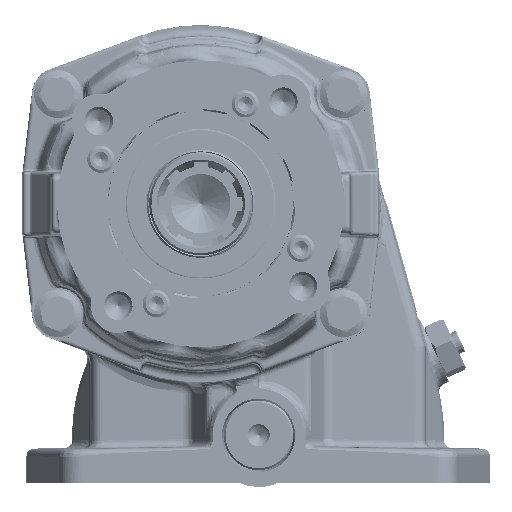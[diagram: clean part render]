
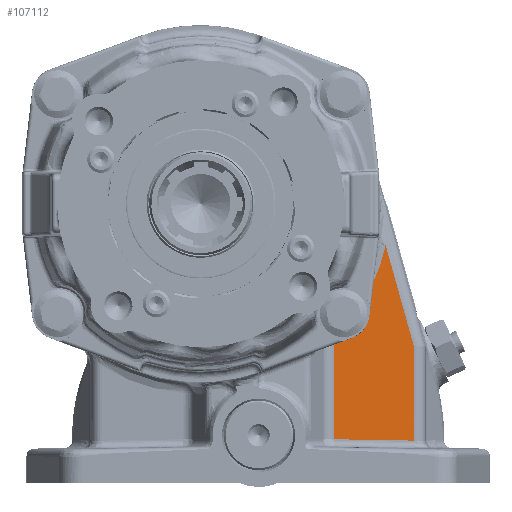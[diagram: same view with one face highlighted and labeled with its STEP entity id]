
A CAD part, left-side view. The second image highlights one B-rep face of the part: STEP entity #107112.
In plain terms, the highlighted planar face has unit normal (-0.999, -0.035, 0).
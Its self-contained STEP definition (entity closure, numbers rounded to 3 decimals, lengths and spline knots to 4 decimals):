
#2184=ELLIPSE('',#114510,3.232,3.23);
#5718=PLANE('',#114509);
#8653=FACE_OUTER_BOUND('',#15112,.T.);
#15112=EDGE_LOOP('',(#72808,#72809,#72810,#72811,#72812));
#25262=LINE('',#159140,#32979);
#25264=LINE('',#159256,#32981);
#25265=LINE('',#159260,#32982);
#25266=LINE('',#159262,#32983);
#32979=VECTOR('',#125168,0.3937);
#32981=VECTOR('',#125190,0.3937);
#32982=VECTOR('',#125195,0.3937);
#32983=VECTOR('',#125196,0.3937);
#44877=VERTEX_POINT('',#159134);
#44878=VERTEX_POINT('',#159138);
#44880=VERTEX_POINT('',#159255);
#44881=VERTEX_POINT('',#159259);
#44882=VERTEX_POINT('',#159261);
#55371=EDGE_CURVE('',#44877,#44878,#25262,.T.);
#55380=EDGE_CURVE('',#44878,#44880,#25264,.T.);
#55382=EDGE_CURVE('',#44881,#44877,#25265,.T.);
#55383=EDGE_CURVE('',#44882,#44881,#25266,.T.);
#55384=EDGE_CURVE('',#44880,#44882,#2184,.T.);
#72808=ORIENTED_EDGE('',*,*,#55371,.F.);
#72809=ORIENTED_EDGE('',*,*,#55382,.F.);
#72810=ORIENTED_EDGE('',*,*,#55383,.F.);
#72811=ORIENTED_EDGE('',*,*,#55384,.F.);
#72812=ORIENTED_EDGE('',*,*,#55380,.F.);
#107112=ADVANCED_FACE('',(#8653),#5718,.T.);
#114509=AXIS2_PLACEMENT_3D('',#159258,#125193,#125194);
#114510=AXIS2_PLACEMENT_3D('',#159263,#125197,#125198);
#125168=DIRECTION('',(-0.035,0.999,0.017));
#125190=DIRECTION('',(0.,0.,1.));
#125193=DIRECTION('center_axis',(-0.999,-0.035,
0.));
#125194=DIRECTION('ref_axis',(0.,0.,1.));
#125195=DIRECTION('',(0.,0.,-1.));
#125196=DIRECTION('',(0.009,-0.269,-0.963));
#125197=DIRECTION('center_axis',(-0.999,-0.035,
0.));
#125198=DIRECTION('ref_axis',(0.035,-0.999,0.));
#159134=CARTESIAN_POINT('',(-1.4067,-2.647,0.8162));
#159138=CARTESIAN_POINT('',(-1.4545,-1.2805,0.8395));
#159140=CARTESIAN_POINT('',(-1.4115,-2.5106,0.8185));
#159255=CARTESIAN_POINT('',(-1.4545,-1.2805,2.5351));
#159256=CARTESIAN_POINT('',(-1.4545,-1.2805,1.0042));
#159258=CARTESIAN_POINT('Origin',(-1.4,-2.84,0.));
#159259=CARTESIAN_POINT('',(-1.4067,-2.647,2.3976));
#159260=CARTESIAN_POINT('',(-1.4067,-2.647,0.));
#159261=CARTESIAN_POINT('',(-1.4236,-2.1642,4.1253));
#159262=CARTESIAN_POINT('',(-1.4112,-2.5203,2.851));
#159263=CARTESIAN_POINT('Origin',(-1.5336,0.9868,4.8357));
